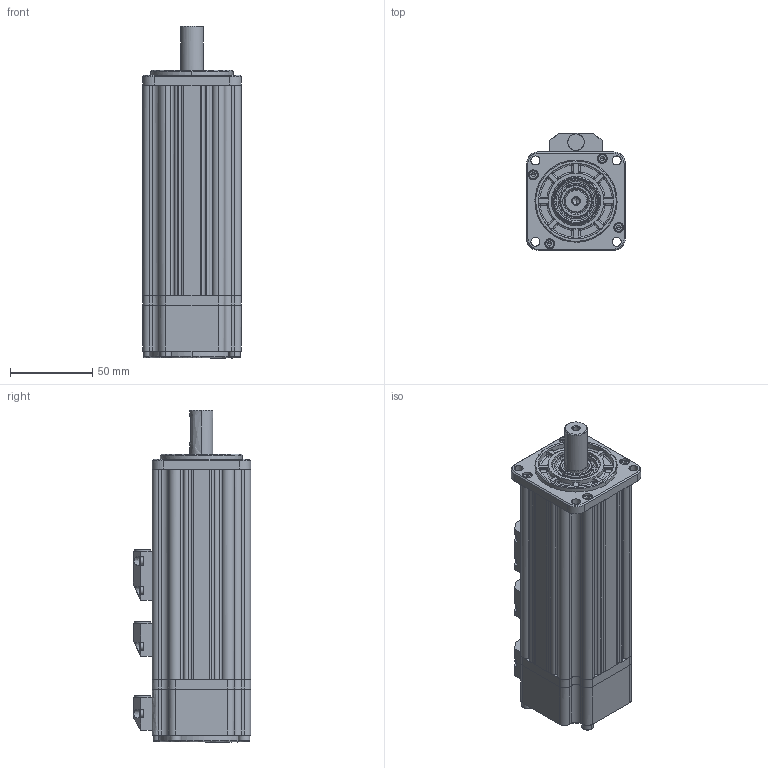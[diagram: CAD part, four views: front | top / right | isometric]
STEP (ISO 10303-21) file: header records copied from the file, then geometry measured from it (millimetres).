
FILE_DESCRIPTION (( 'STEP AP203' ), '1' );
FILE_NAME ('EMJ-04(APB,AFB,AFD)（with holding brake）.STEP', '2020-03-30T02:07:20', ( '' ), ( '' ), 'SwSTEP 2.0', 'SolidWorks 2018', '' );
FILE_SCHEMA (( 'CONFIG_CONTROL_DESIGN' ));
Products named in the file (1): EMJ-04(APB,AFB,AFD)（with holding brake）
Bounding box: 60 x 71.5 x 202.2 mm (x, y, z)
Surface area: 91695.7 mm2 (no closed solid volume)
Topology: 0 solids, 50 shells, 995 faces, 2624 edges, 1653 vertices
Faces by surface type: bspline 995
Entity records: 39807 total; most frequent: CARTESIAN_POINT 25401, ORIENTED_EDGE 4736, EDGE_CURVE 2552, B_SPLINE_CURVE_WITH_KNOTS 1713, VERTEX_POINT 1655, EDGE_LOOP 1101, FACE_OUTER_BOUND 998, ADVANCED_FACE 995
